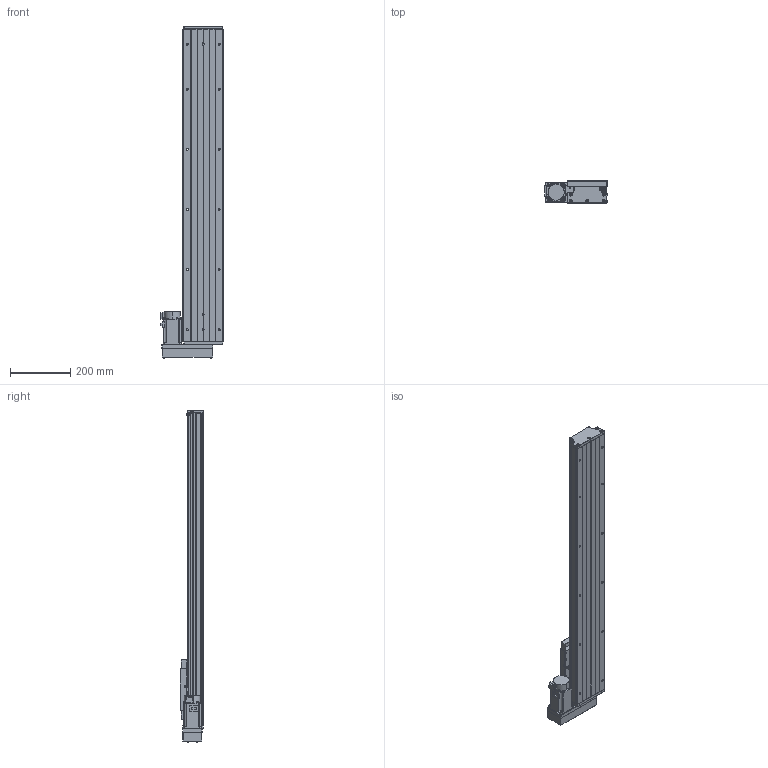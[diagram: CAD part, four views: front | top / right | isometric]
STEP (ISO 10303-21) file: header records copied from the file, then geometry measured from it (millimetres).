
FILE_DESCRIPTION (( 'STEP AP203' ), '1' );
FILE_NAME ('GTH14-800-BL-M40-C4.step', '2023-06-30T08:41:24', ( '微软用户' ), ( '微软中国' ), 'SwSTEP 2.0', 'SolidWorks 2020', '' );
FILE_SCHEMA (( 'CONFIG_CONTROL_DESIGN' ));
Length unit declared in the file: millimetre
Products named in the file (19): GTH14-002_GTH14-002; CTHA60-016; GBT 70.2-M4¡Á35_M4¡Á35; GTH14-004; GBT 70.1-M3℅5; GTH14-015-2_CTHA86-015-2; GTH14-005; GBT77-2000 M3×3; GTH14-033; GB1155-6X6; GTH14-031; GTH14-800-BL-M40-C4; GBT70.1 M5℅16; GBT 70.2-M3¡Á5_M3¡Á6; CTHA60-017; す晦芛蹟隊 M3℅5; GTH14-001_800; EE_SX911P_R; HG-KN43J-S100
Assembly tree (58 placements, depth 2):
  GTH14-800-BL-M40-C4
    GTH14-001_800
    GTH14-002_GTH14-002
    GTH14-004
    GTH14-005
    GB1155-6X6  x2
    GBT70.1 M5℅16  x10
    CTHA60-017  x3
    EE_SX911P_R  x3
    CTHA60-016  x2
    GBT 70.1-M3℅5  x6
    GBT77-2000 M3×3  x6
    GTH14-031
    GBT 70.2-M3¡Á5_M3¡Á6  x8
    す晦芛蹟隊 M3℅5  x6
    HG-KN43J-S100
    GBT 70.2-M4¡Á35_M4¡Á35  x4
    GTH14-015-2_CTHA86-015-2
    GTH14-033
Bounding box: 209.3 x 78 x 1104.2 mm (x, y, z)
Volume: 6005365 mm3; surface area: 989560.6 mm2
Topology: 61 solids, 61 shells, 2463 faces, 5857 edges, 3610 vertices
Faces by surface type: plane 1309, cylinder 664, cone 314, torus 124, sphere 32, bspline 20
Entity records: 44466 total; most frequent: CARTESIAN_POINT 9907, DIRECTION 6549, ORIENTED_EDGE 6404, EDGE_CURVE 3202, AXIS2_PLACEMENT_3D 2244, LINE 2061, VECTOR 2061, VERTEX_POINT 2028
